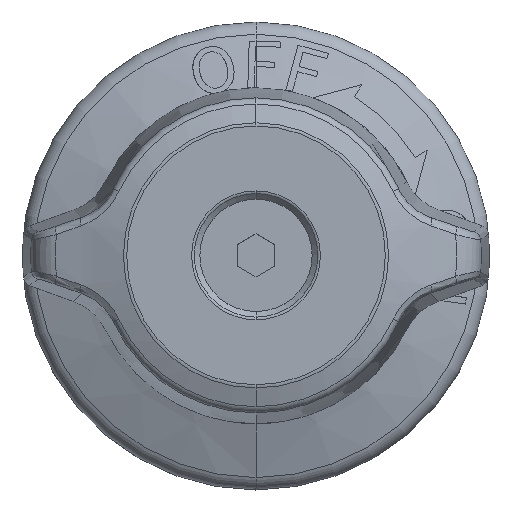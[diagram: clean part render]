
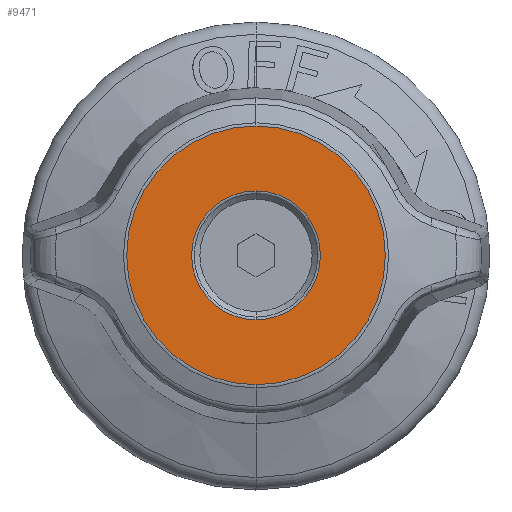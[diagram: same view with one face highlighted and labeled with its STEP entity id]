
A CAD part, top view. The second image highlights one B-rep face of the part: STEP entity #9471.
In plain terms, the highlighted planar face has unit normal (0, 0, 1).
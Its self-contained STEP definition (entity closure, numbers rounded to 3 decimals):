
#144 = AXIS2_PLACEMENT_3D ( 'NONE', #370, #7880, #5545 ) ;
#272 = DIRECTION ( 'NONE',  ( 0., 1., 0. ) ) ;
#370 = CARTESIAN_POINT ( 'NONE',  ( 0., 0., 21.354 ) ) ;
#399 = CARTESIAN_POINT ( 'NONE',  ( 0., 0., 21.354 ) ) ;
#452 = CARTESIAN_POINT ( 'NONE',  ( 0., 0., 21.354 ) ) ;
#508 = DIRECTION ( 'NONE',  ( 0., 1., 0. ) ) ;
#1192 = FACE_OUTER_BOUND ( 'NONE', #6997, .T. ) ;
#1256 = AXIS2_PLACEMENT_3D ( 'NONE', #452, #6495, #508 ) ;
#1358 = EDGE_LOOP ( 'NONE', ( #4309, #2198 ) ) ;
#1940 = DIRECTION ( 'NONE',  ( 0., 0., 1. ) ) ;
#2198 = ORIENTED_EDGE ( 'NONE', *, *, #7100, .T. ) ;
#2310 = CARTESIAN_POINT ( 'NONE',  ( 0., 6.912, 21.354 ) ) ;
#2430 = CARTESIAN_POINT ( 'NONE',  ( 0., 0., 21.354 ) ) ;
#2762 = EDGE_CURVE ( 'NONE', #6525, #3777, #9019, .T. ) ;
#3325 = DIRECTION ( 'NONE',  ( 0., 0., -1. ) ) ;
#3457 = CIRCLE ( 'NONE', #144, 3.443 ) ;
#3777 = VERTEX_POINT ( 'NONE', #4369 ) ;
#4101 = CIRCLE ( 'NONE', #5353, 6.912 ) ;
#4182 = AXIS2_PLACEMENT_3D ( 'NONE', #2430, #3325, #272 ) ;
#4193 = PLANE ( 'NONE',  #1256 ) ;
#4233 = ORIENTED_EDGE ( 'NONE', *, *, #4941, .T. ) ;
#4309 = ORIENTED_EDGE ( 'NONE', *, *, #2762, .T. ) ;
#4369 = CARTESIAN_POINT ( 'NONE',  ( 0., -3.443, 21.354 ) ) ;
#4941 = EDGE_CURVE ( 'NONE', #7774, #6127, #6555, .T. ) ;
#5353 = AXIS2_PLACEMENT_3D ( 'NONE', #8335, #8380, #6772 ) ;
#5545 = DIRECTION ( 'NONE',  ( 0., 1., 0. ) ) ;
#5860 = FACE_BOUND ( 'NONE', #1358, .T. ) ;
#6127 = VERTEX_POINT ( 'NONE', #6640 ) ;
#6495 = DIRECTION ( 'NONE',  ( 0., 0., -1. ) ) ;
#6525 = VERTEX_POINT ( 'NONE', #7504 ) ;
#6555 = CIRCLE ( 'NONE', #8262, 6.912 ) ;
#6640 = CARTESIAN_POINT ( 'NONE',  ( 0., -6.912, 21.354 ) ) ;
#6772 = DIRECTION ( 'NONE',  ( 0., 1., 0. ) ) ;
#6997 = EDGE_LOOP ( 'NONE', ( #4233, #8235 ) ) ;
#7100 = EDGE_CURVE ( 'NONE', #3777, #6525, #3457, .T. ) ;
#7504 = CARTESIAN_POINT ( 'NONE',  ( 0., 3.443, 21.354 ) ) ;
#7774 = VERTEX_POINT ( 'NONE', #2310 ) ;
#7880 = DIRECTION ( 'NONE',  ( 0., 0., -1. ) ) ;
#8235 = ORIENTED_EDGE ( 'NONE', *, *, #8569, .T. ) ;
#8262 = AXIS2_PLACEMENT_3D ( 'NONE', #399, #1940, #8598 ) ;
#8335 = CARTESIAN_POINT ( 'NONE',  ( 0., 0., 21.354 ) ) ;
#8380 = DIRECTION ( 'NONE',  ( 0., 0., 1. ) ) ;
#8569 = EDGE_CURVE ( 'NONE', #6127, #7774, #4101, .T. ) ;
#8598 = DIRECTION ( 'NONE',  ( 0., 1., 0. ) ) ;
#9019 = CIRCLE ( 'NONE', #4182, 3.443 ) ;
#9471 = ADVANCED_FACE ( 'NONE', ( #5860, #1192 ), #4193, .F. ) ;
